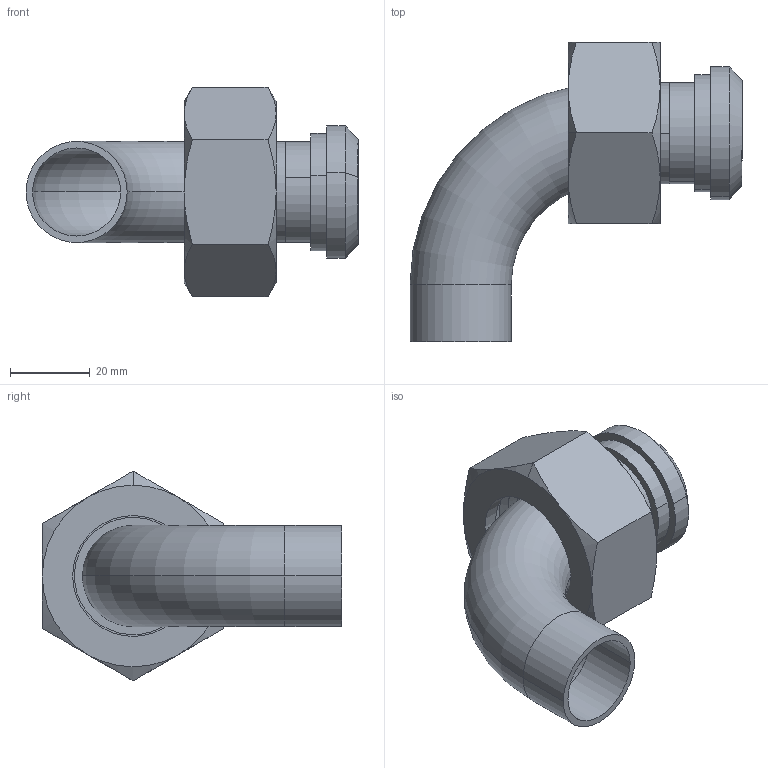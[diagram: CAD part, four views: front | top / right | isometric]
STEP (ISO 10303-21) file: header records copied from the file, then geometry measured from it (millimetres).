
FILE_DESCRIPTION (( 'STEP AP203' ), '1' );
FILE_NAME ('E2F1.0.STEP', '2018-05-02T13:18:11', ( 'vneprd' ), ( 'Microsoft' ), 'SwSTEP 2.0', 'SolidWorks 2014', '' );
FILE_SCHEMA (( 'CONFIG_CONTROL_DESIGN' ));
Length unit declared in the file: inch
Products named in the file (4): E2S1.0; 14PR1.0; 13H1.0; E2F1.0
Assembly tree (3 placements, depth 2):
  E2F1.0
    E2S1.0
    14PR1.0
    13H1.0
Bounding box: 83.36 x 75.17 x 52.65 mm (x, y, z)
Volume: 34617.7 mm3; surface area: 26734.3 mm2
Topology: 3 solids, 3 shells, 68 faces, 157 edges, 98 vertices
Faces by surface type: cylinder 28, plane 17, cone 16, torus 4, bspline 3
Entity records: 3504 total; most frequent: CARTESIAN_POINT 1608, ORIENTED_EDGE 314, DIRECTION 313, EDGE_CURVE 157, AXIS2_PLACEMENT_3D 135, VERTEX_POINT 98, EDGE_LOOP 77, FACE_OUTER_BOUND 68
